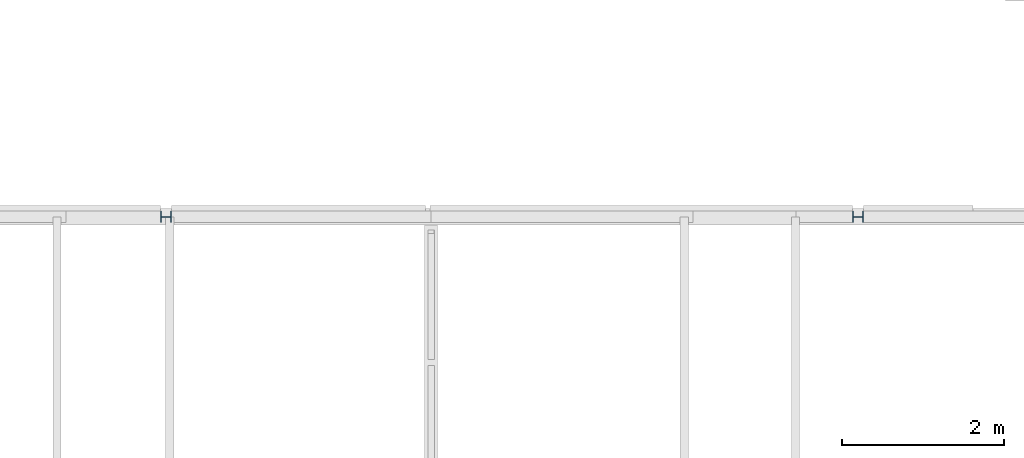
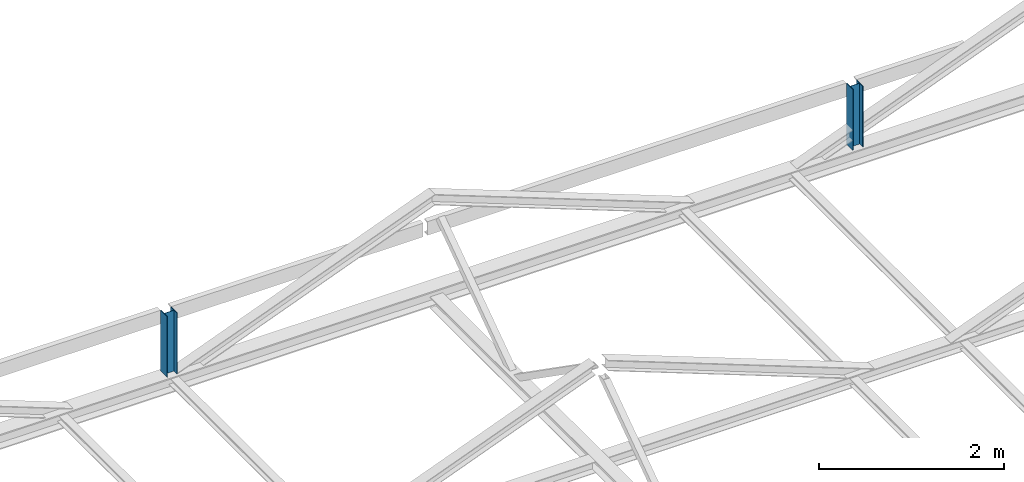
# One storey, part 1 of 10: 2 columns.
"""IFC2X3 building model written with IfcOpenShell, lengths in millimetres."""

from ifc_helpers import new_model, entity, si_unit, converted_unit, derived_unit, direction, frame, frame_2d, origin, place, context, subcontext, project, spatial, i_section, extrude, source, transform, mapped, material, type_object, type_shapes, element, save


model = new_model("IFC2X3")

# Units and contexts
model_context = context("Model", 3, precision=0.01, world=origin(), true_north=direction((6.123031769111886e-17, 1.0)))
body_context = subcontext(model_context, "Body", "Model", "MODEL_VIEW")
ifc_project = project(units=[si_unit("LENGTHUNIT", "METRE", prefix="MILLI"), si_unit("AREAUNIT", "SQUARE_METRE", prefix="MILLI"), si_unit("VOLUMEUNIT", "CUBIC_METRE"), converted_unit("PLANEANGLEUNIT", "DEGREE", entity("IfcPlaneAngleMeasure", 0.017453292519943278), si_unit("PLANEANGLEUNIT", "RADIAN"), dimensions=[0, 0, 0, 0, 0, 0, 0]), si_unit("MASSUNIT", "GRAM", prefix="KILO"), derived_unit("MASSDENSITYUNIT", [(si_unit("MASSUNIT", "GRAM", prefix="KILO"), 1), (si_unit("LENGTHUNIT", "METRE"), -3)]), derived_unit("IONCONCENTRATIONUNIT", [(si_unit("MASSUNIT", "GRAM", prefix="KILO"), 1), (si_unit("LENGTHUNIT", "METRE"), -3)]), derived_unit("MOMENTOFINERTIAUNIT", [(si_unit("LENGTHUNIT", "METRE"), 4)]), si_unit("TIMEUNIT", "SECOND"), si_unit("FREQUENCYUNIT", "HERTZ"), si_unit("THERMODYNAMICTEMPERATUREUNIT", "DEGREE_CELSIUS"), derived_unit("THERMALTRANSMITTANCEUNIT", [(si_unit("MASSUNIT", "GRAM", prefix="KILO"), 1), (si_unit("THERMODYNAMICTEMPERATUREUNIT", "KELVIN"), -1), (si_unit("TIMEUNIT", "SECOND"), -3)]), derived_unit("THERMALCONDUCTANCEUNIT", [(si_unit("MASSUNIT", "GRAM", prefix="KILO"), 1), (si_unit("THERMODYNAMICTEMPERATUREUNIT", "KELVIN"), -1), (si_unit("TIMEUNIT", "SECOND"), -3), (si_unit("LENGTHUNIT", "METRE"), 1)]), derived_unit("VOLUMETRICFLOWRATEUNIT", [(si_unit("LENGTHUNIT", "METRE", prefix="DECI"), 3), (si_unit("TIMEUNIT", "SECOND"), -1)]), derived_unit("MASSFLOWRATEUNIT", [(si_unit("MASSUNIT", "GRAM", prefix="KILO"), 1), (si_unit("TIMEUNIT", "SECOND"), -1)]), derived_unit("ROTATIONALFREQUENCYUNIT", [(si_unit("TIMEUNIT", "SECOND"), -1)]), si_unit("ELECTRICCURRENTUNIT", "AMPERE"), si_unit("ELECTRICVOLTAGEUNIT", "VOLT"), si_unit("POWERUNIT", "WATT"), si_unit("FORCEUNIT", "NEWTON", prefix="KILO"), si_unit("ILLUMINANCEUNIT", "LUX"), si_unit("LUMINOUSFLUXUNIT", "LUMEN"), si_unit("LUMINOUSINTENSITYUNIT", "CANDELA"), si_unit("ENERGYUNIT", "JOULE"), derived_unit("USERDEFINED", [(si_unit("MASSUNIT", "GRAM", prefix="KILO"), -1), (si_unit("LENGTHUNIT", "METRE"), -2), (si_unit("TIMEUNIT", "SECOND"), 3), (si_unit("LUMINOUSFLUXUNIT", "LUMEN"), 1)]), derived_unit("USERDEFINED", [(si_unit("MASSUNIT", "GRAM", prefix="KILO"), 1), (si_unit("TIMEUNIT", "SECOND"), -3), (si_unit("LENGTHUNIT", "METRE"), 3), (si_unit("ELECTRICCURRENTUNIT", "AMPERE"), -2)]), derived_unit("SOUNDPOWERUNIT", [(si_unit("MASSUNIT", "GRAM", prefix="KILO"), 1), (si_unit("TIMEUNIT", "SECOND"), -3), (si_unit("LENGTHUNIT", "METRE"), 2)]), derived_unit("SOUNDPRESSUREUNIT", [(si_unit("MASSUNIT", "GRAM", prefix="KILO"), 1), (si_unit("LENGTHUNIT", "METRE"), -1), (si_unit("TIMEUNIT", "SECOND"), -2)]), derived_unit("LINEARVELOCITYUNIT", [(si_unit("LENGTHUNIT", "METRE"), 1), (si_unit("TIMEUNIT", "SECOND"), -1)]), si_unit("PRESSUREUNIT", "PASCAL"), derived_unit("USERDEFINED", [(si_unit("MASSUNIT", "GRAM", prefix="KILO"), 1), (si_unit("LENGTHUNIT", "METRE"), -2), (si_unit("TIMEUNIT", "SECOND"), -2)]), derived_unit("LINEARFORCEUNIT", [(si_unit("MASSUNIT", "GRAM", prefix="KILO"), 1), (si_unit("TIMEUNIT", "SECOND"), -2)]), derived_unit("PLANARFORCEUNIT", [(si_unit("MASSUNIT", "GRAM", prefix="KILO"), 1), (si_unit("LENGTHUNIT", "METRE"), -1), (si_unit("TIMEUNIT", "SECOND"), -2)]), derived_unit("SPECIFICHEATCAPACITYUNIT", [(si_unit("THERMODYNAMICTEMPERATUREUNIT", "KELVIN"), -1), (si_unit("LENGTHUNIT", "METRE"), 2), (si_unit("TIMEUNIT", "SECOND"), -2)]), derived_unit("HEATFLUXDENSITYUNIT", [(si_unit("MASSUNIT", "GRAM", prefix="KILO"), 1), (si_unit("TIMEUNIT", "SECOND"), -3)]), derived_unit("HEATINGVALUEUNIT", [(si_unit("LENGTHUNIT", "METRE"), 2), (si_unit("TIMEUNIT", "SECOND"), -2)]), derived_unit("VAPORPERMEABILITYUNIT", [(si_unit("LENGTHUNIT", "METRE"), -1), (si_unit("TIMEUNIT", "SECOND"), 1)]), derived_unit("DYNAMICVISCOSITYUNIT", [(si_unit("MASSUNIT", "GRAM", prefix="KILO"), 1), (si_unit("TIMEUNIT", "SECOND"), -1), (si_unit("LENGTHUNIT", "METRE"), -1)]), derived_unit("THERMALEXPANSIONCOEFFICIENTUNIT", [(si_unit("THERMODYNAMICTEMPERATUREUNIT", "KELVIN"), -1)]), derived_unit("MODULUSOFELASTICITYUNIT", [(si_unit("MASSUNIT", "GRAM", prefix="KILO"), 1), (si_unit("LENGTHUNIT", "METRE"), -1), (si_unit("TIMEUNIT", "SECOND"), -2)]), derived_unit("ISOTHERMALMOISTURECAPACITYUNIT", [(si_unit("MASSUNIT", "GRAM", prefix="KILO"), -1), (si_unit("LENGTHUNIT", "METRE"), 3)]), derived_unit("MOISTUREDIFFUSIVITYUNIT", [(si_unit("TIMEUNIT", "SECOND"), -1), (si_unit("LENGTHUNIT", "METRE"), 2)]), derived_unit("MASSPERLENGTHUNIT", [(si_unit("MASSUNIT", "GRAM", prefix="KILO"), 1), (si_unit("LENGTHUNIT", "METRE"), -1)]), derived_unit("THERMALRESISTANCEUNIT", [(si_unit("MASSUNIT", "GRAM", prefix="KILO"), -1), (si_unit("TIMEUNIT", "SECOND"), 3), (si_unit("THERMODYNAMICTEMPERATUREUNIT", "KELVIN"), 1)]), derived_unit("ACCELERATIONUNIT", [(si_unit("LENGTHUNIT", "METRE"), 1), (si_unit("TIMEUNIT", "SECOND"), -2)]), derived_unit("ANGULARVELOCITYUNIT", [(si_unit("TIMEUNIT", "SECOND"), -1), (si_unit("PLANEANGLEUNIT", "RADIAN"), 1)]), derived_unit("LINEARSTIFFNESSUNIT", [(si_unit("MASSUNIT", "GRAM", prefix="KILO"), 1), (si_unit("TIMEUNIT", "SECOND"), -2)]), derived_unit("WARPINGCONSTANTUNIT", [(si_unit("LENGTHUNIT", "METRE"), 6)]), derived_unit("LINEARMOMENTUNIT", [(si_unit("MASSUNIT", "GRAM", prefix="KILO"), 1), (si_unit("LENGTHUNIT", "METRE"), 1), (si_unit("TIMEUNIT", "SECOND"), -2)]), derived_unit("TORQUEUNIT", [(si_unit("MASSUNIT", "GRAM", prefix="KILO"), 1), (si_unit("LENGTHUNIT", "METRE"), 2), (si_unit("TIMEUNIT", "SECOND"), -2)])], contexts=[model_context])

# Site, building, storey
site_placement = place(None, origin())
site = spatial("IfcSite", under=ifc_project, at=site_placement, Name="Default", CompositionType="ELEMENT")
building_placement = place(site_placement, origin())
building = spatial("IfcBuilding", under=site, at=building_placement, CompositionType="ELEMENT")
storey_placement = place(building_placement, frame((0.0, 0.0, 10840.0)))
storey = spatial("IfcBuildingStorey", under=building, at=storey_placement, Name="V3 dakvloer", CompositionType="ELEMENT", Elevation=10839.99999999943)

# Columns
ifc_material = material(Name="Metal - Steel - S235 JRG2 (standaard)")
column_type_1 = type_object("IfcColumnType", Name="btk_staal - HE(a-b-m):HEA140", PredefinedType="COLUMN", material=ifc_material)
shared_shape_1 = source(origin(), body_context, "Body", "SweptSolid", [
    extrude(i_section(OverallWidth=140.00000000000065, OverallDepth=133.00000000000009, WebThickness=5.500000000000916, FlangeThickness=8.500000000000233, at=frame_2d((-5.4143356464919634e-12, 4.334310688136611e-12), x_axis=(1.0, 0.0))), frame((14699.86310883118, 17494.605013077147, 10897.953124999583), z_axis=(0.0, 0.0, 1.0), x_axis=(0.0, -1.0, 0.0)), (0.0, 0.0, 1.0), 802.0468750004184),
])
type_shapes(column_type_1, [shared_shape_1])
column_1_placement = place(storey_placement, frame((0.0, 0.0, -10840.0)))
element("IfcColumn", 1, at=column_1_placement, inside=storey, type_object=column_type_1, material=ifc_material, Name="btk_staal - HE(a-b-m):HEA140", ObjectType="btk_staal - HE(a-b-m):HEA140", context=body_context, shape_type="MappedRepresentation", body=[
    mapped(shared_shape_1, transform((0.0, 0.0, 0.0), scale=1.0)),
])
column_type_2 = type_object("IfcColumnType", Name="btk_staal - HE(a-b-m):HEA140", PredefinedType="COLUMN", material=ifc_material)
shared_shape_2 = source(origin(), body_context, "Body", "SweptSolid", [
    extrude(i_section(OverallWidth=140.00000000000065, OverallDepth=133.00000000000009, WebThickness=5.500000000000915, FlangeThickness=8.499999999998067, at=frame_2d((1.0800249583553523e-12, -2.1600499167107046e-12), x_axis=(1.0, 0.0))), frame((23249.98660715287, 17494.6050130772, 10897.953124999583), z_axis=(0.0, 0.0, 1.0), x_axis=(0.0, -1.0, 0.0)), (0.0, 0.0, 1.0), 802.0468750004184),
])
type_shapes(column_type_2, [shared_shape_2])
column_2_placement = place(storey_placement, frame((0.0, 0.0, -10840.0)))
element("IfcColumn", 2, at=column_2_placement, inside=storey, type_object=column_type_2, material=ifc_material, Name="btk_staal - HE(a-b-m):HEA140", ObjectType="btk_staal - HE(a-b-m):HEA140", context=body_context, shape_type="MappedRepresentation", body=[
    mapped(shared_shape_2, transform((0.0, 0.0, 0.0), scale=1.0)),
])

save(model, "model.ifc")
